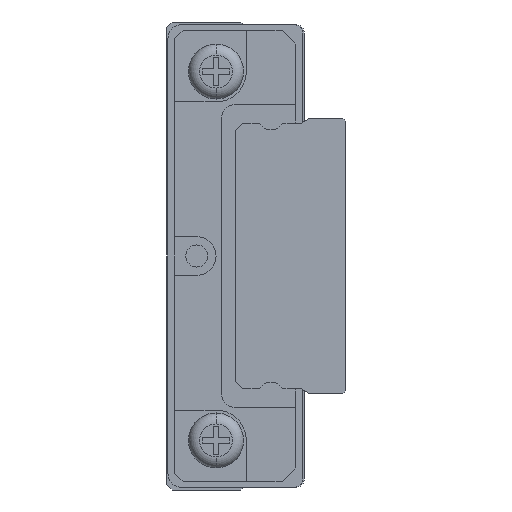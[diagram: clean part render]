
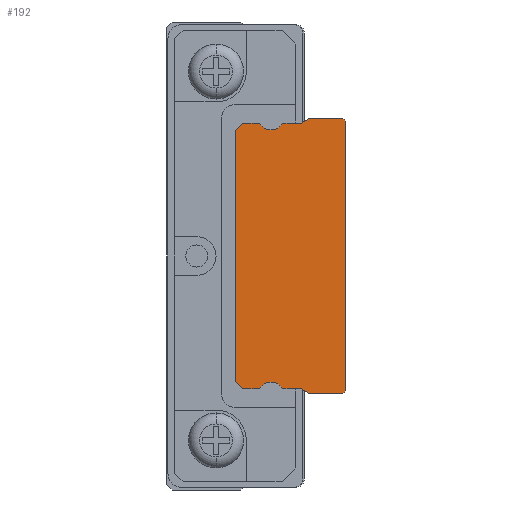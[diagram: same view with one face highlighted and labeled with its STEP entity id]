
A CAD part, left-side view. The second image highlights one B-rep face of the part: STEP entity #192.
In plain terms, the highlighted planar face has unit normal (-1, 0, 0).
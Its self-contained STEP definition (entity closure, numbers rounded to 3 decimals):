
#192 = ADVANCED_FACE( '', ( #558 ), #559, .F. );
#558 = FACE_OUTER_BOUND( '', #1134, .T. );
#559 = PLANE( '', #1135 );
#1134 = EDGE_LOOP( '', ( #2079, #2080, #2081, #2082, #2083, #2084, #2085, #2086, #2087, #2088, #2089, #2090, #2091, #2092, #2093, #2094, #2095, #2096 ) );
#1135 = AXIS2_PLACEMENT_3D( '', #2097, #2098, #2099 );
#2079 = ORIENTED_EDGE( '', *, *, #3957, .F. );
#2080 = ORIENTED_EDGE( '', *, *, #3906, .F. );
#2081 = ORIENTED_EDGE( '', *, *, #3910, .F. );
#2082 = ORIENTED_EDGE( '', *, *, #3913, .F. );
#2083 = ORIENTED_EDGE( '', *, *, #3916, .F. );
#2084 = ORIENTED_EDGE( '', *, *, #3919, .F. );
#2085 = ORIENTED_EDGE( '', *, *, #3922, .F. );
#2086 = ORIENTED_EDGE( '', *, *, #3925, .F. );
#2087 = ORIENTED_EDGE( '', *, *, #3928, .F. );
#2088 = ORIENTED_EDGE( '', *, *, #3931, .F. );
#2089 = ORIENTED_EDGE( '', *, *, #3934, .F. );
#2090 = ORIENTED_EDGE( '', *, *, #3937, .F. );
#2091 = ORIENTED_EDGE( '', *, *, #3940, .F. );
#2092 = ORIENTED_EDGE( '', *, *, #3943, .F. );
#2093 = ORIENTED_EDGE( '', *, *, #3946, .F. );
#2094 = ORIENTED_EDGE( '', *, *, #3949, .F. );
#2095 = ORIENTED_EDGE( '', *, *, #3952, .F. );
#2096 = ORIENTED_EDGE( '', *, *, #3955, .F. );
#2097 = CARTESIAN_POINT( '', ( -10., 0., 0. ) );
#2098 = DIRECTION( '', ( 1., 0., 0. ) );
#2099 = DIRECTION( '', ( 0., 0., -1. ) );
#3906 = EDGE_CURVE( '', #4709, #4711, #4712, .T. );
#3910 = EDGE_CURVE( '', #4716, #4709, #4718, .T. );
#3913 = EDGE_CURVE( '', #4721, #4716, #4723, .T. );
#3916 = EDGE_CURVE( '', #4726, #4721, #4728, .T. );
#3919 = EDGE_CURVE( '', #4731, #4726, #4733, .T. );
#3922 = EDGE_CURVE( '', #4736, #4731, #4738, .T. );
#3925 = EDGE_CURVE( '', #4741, #4736, #4743, .T. );
#3928 = EDGE_CURVE( '', #4746, #4741, #4748, .T. );
#3931 = EDGE_CURVE( '', #4751, #4746, #4753, .T. );
#3934 = EDGE_CURVE( '', #4756, #4751, #4758, .T. );
#3937 = EDGE_CURVE( '', #4761, #4756, #4763, .T. );
#3940 = EDGE_CURVE( '', #4766, #4761, #4768, .T. );
#3943 = EDGE_CURVE( '', #4771, #4766, #4773, .T. );
#3946 = EDGE_CURVE( '', #4776, #4771, #4778, .T. );
#3949 = EDGE_CURVE( '', #4781, #4776, #4783, .T. );
#3952 = EDGE_CURVE( '', #4786, #4781, #4788, .T. );
#3955 = EDGE_CURVE( '', #4791, #4786, #4793, .T. );
#3957 = EDGE_CURVE( '', #4711, #4791, #4795, .T. );
#4709 = VERTEX_POINT( '', #5952 );
#4711 = VERTEX_POINT( '', #5955 );
#4712 = LINE( '', #5956, #5957 );
#4716 = VERTEX_POINT( '', #5963 );
#4718 = LINE( '', #5966, #5967 );
#4721 = VERTEX_POINT( '', #5970 );
#4723 = CIRCLE( '', #5973, 0.5 );
#4726 = VERTEX_POINT( '', #5976 );
#4728 = CIRCLE( '', #5979, 0.5 );
#4731 = VERTEX_POINT( '', #5983 );
#4733 = LINE( '', #5986, #5987 );
#4736 = VERTEX_POINT( '', #5991 );
#4738 = LINE( '', #5994, #5995 );
#4741 = VERTEX_POINT( '', #5999 );
#4743 = LINE( '', #6002, #6003 );
#4746 = VERTEX_POINT( '', #6007 );
#4748 = LINE( '', #6010, #6011 );
#4751 = VERTEX_POINT( '', #6015 );
#4753 = LINE( '', #6018, #6019 );
#4756 = VERTEX_POINT( '', #6022 );
#4758 = CIRCLE( '', #6025, 0.5 );
#4761 = VERTEX_POINT( '', #6028 );
#4763 = CIRCLE( '', #6031, 0.5 );
#4766 = VERTEX_POINT( '', #6035 );
#4768 = LINE( '', #6038, #6039 );
#4771 = VERTEX_POINT( '', #6043 );
#4773 = LINE( '', #6046, #6047 );
#4776 = VERTEX_POINT( '', #6051 );
#4778 = LINE( '', #6054, #6055 );
#4781 = VERTEX_POINT( '', #6059 );
#4783 = LINE( '', #6062, #6063 );
#4786 = VERTEX_POINT( '', #6067 );
#4788 = LINE( '', #6070, #6071 );
#4791 = VERTEX_POINT( '', #6075 );
#4793 = LINE( '', #6078, #6079 );
#4795 = LINE( '', #6082, #6083 );
#5952 = CARTESIAN_POINT( '', ( -10., 1.594, 4.83 ) );
#5955 = CARTESIAN_POINT( '', ( -10., 1.3, 5. ) );
#5956 = CARTESIAN_POINT( '', ( -10., 1.594, 4.83 ) );
#5957 = VECTOR( '', #7706, 1. );
#5963 = CARTESIAN_POINT( '', ( -10., 2.275, 4.83 ) );
#5966 = CARTESIAN_POINT( '', ( -10., 2.275, 4.83 ) );
#5967 = VECTOR( '', #7710, 1. );
#5970 = CARTESIAN_POINT( '', ( -10., 2.7, 4.58 ) );
#5973 = AXIS2_PLACEMENT_3D( '', #7715, #7716, #7717 );
#5976 = CARTESIAN_POINT( '', ( -10., 3.125, 4.83 ) );
#5979 = AXIS2_PLACEMENT_3D( '', #7722, #7723, #7724 );
#5983 = CARTESIAN_POINT( '', ( -10., 3.74, 4.83 ) );
#5986 = CARTESIAN_POINT( '', ( -10., 3.74, 4.83 ) );
#5987 = VECTOR( '', #7727, 1. );
#5991 = CARTESIAN_POINT( '', ( -10., 4., 4.57 ) );
#5994 = CARTESIAN_POINT( '', ( -10., 4., 4.57 ) );
#5995 = VECTOR( '', #7730, 1. );
#5999 = CARTESIAN_POINT( '', ( -10., 4., -4.57 ) );
#6002 = CARTESIAN_POINT( '', ( -10., 4., -4.57 ) );
#6003 = VECTOR( '', #7733, 1. );
#6007 = CARTESIAN_POINT( '', ( -10., 3.74, -4.83 ) );
#6010 = CARTESIAN_POINT( '', ( -10., 3.74, -4.83 ) );
#6011 = VECTOR( '', #7736, 1. );
#6015 = CARTESIAN_POINT( '', ( -10., 3.125, -4.83 ) );
#6018 = CARTESIAN_POINT( '', ( -10., 3.125, -4.83 ) );
#6019 = VECTOR( '', #7739, 1. );
#6022 = CARTESIAN_POINT( '', ( -10., 2.7, -4.58 ) );
#6025 = AXIS2_PLACEMENT_3D( '', #7744, #7745, #7746 );
#6028 = CARTESIAN_POINT( '', ( -10., 2.275, -4.83 ) );
#6031 = AXIS2_PLACEMENT_3D( '', #7751, #7752, #7753 );
#6035 = CARTESIAN_POINT( '', ( -10., 1.594, -4.83 ) );
#6038 = CARTESIAN_POINT( '', ( -10., 1.594, -4.83 ) );
#6039 = VECTOR( '', #7756, 1. );
#6043 = CARTESIAN_POINT( '', ( -10., 1.3, -5. ) );
#6046 = CARTESIAN_POINT( '', ( -10., 1.3, -5. ) );
#6047 = VECTOR( '', #7759, 1. );
#6051 = CARTESIAN_POINT( '', ( -10., 0.1, -5. ) );
#6054 = CARTESIAN_POINT( '', ( -10., 0.1, -5. ) );
#6055 = VECTOR( '', #7762, 1. );
#6059 = CARTESIAN_POINT( '', ( -10., 0., -4.9 ) );
#6062 = CARTESIAN_POINT( '', ( -10., 0., -4.9 ) );
#6063 = VECTOR( '', #7765, 1. );
#6067 = CARTESIAN_POINT( '', ( -10., 0., 4.9 ) );
#6070 = CARTESIAN_POINT( '', ( -10., 0., 4.9 ) );
#6071 = VECTOR( '', #7768, 1. );
#6075 = CARTESIAN_POINT( '', ( -10., 0.1, 5. ) );
#6078 = CARTESIAN_POINT( '', ( -10., 0.1, 5. ) );
#6079 = VECTOR( '', #7771, 1. );
#6082 = CARTESIAN_POINT( '', ( -10., 1.3, 5. ) );
#6083 = VECTOR( '', #7773, 1. );
#7706 = DIRECTION( '', ( 0., -0.866, 0.5 ) );
#7710 = DIRECTION( '', ( 0., -1., 0. ) );
#7715 = CARTESIAN_POINT( '', ( -10., 2.708, 5.08 ) );
#7716 = DIRECTION( '', ( -1., 0., 0. ) );
#7717 = DIRECTION( '', ( 0., -0.015, -1. ) );
#7722 = CARTESIAN_POINT( '', ( -10., 2.692, 5.08 ) );
#7723 = DIRECTION( '', ( -1., 0., 0. ) );
#7724 = DIRECTION( '', ( 0., 0.866, -0.5 ) );
#7727 = DIRECTION( '', ( 0., -1., 0. ) );
#7730 = DIRECTION( '', ( 0., -0.707, 0.707 ) );
#7733 = DIRECTION( '', ( 0., 0., 1. ) );
#7736 = DIRECTION( '', ( 0., 0.707, 0.707 ) );
#7739 = DIRECTION( '', ( 0., 1., 0. ) );
#7744 = CARTESIAN_POINT( '', ( -10., 2.692, -5.08 ) );
#7745 = DIRECTION( '', ( -1., 0., 0. ) );
#7746 = DIRECTION( '', ( 0., 0.015, 1. ) );
#7751 = CARTESIAN_POINT( '', ( -10., 2.708, -5.08 ) );
#7752 = DIRECTION( '', ( -1., 0., 0. ) );
#7753 = DIRECTION( '', ( 0., -0.866, 0.5 ) );
#7756 = DIRECTION( '', ( 0., 1., 0. ) );
#7759 = DIRECTION( '', ( 0., 0.866, 0.5 ) );
#7762 = DIRECTION( '', ( 0., 1., 0. ) );
#7765 = DIRECTION( '', ( 0., 0.707, -0.707 ) );
#7768 = DIRECTION( '', ( 0., 0., -1. ) );
#7771 = DIRECTION( '', ( 0., -0.707, -0.707 ) );
#7773 = DIRECTION( '', ( 0., -1., 0. ) );
